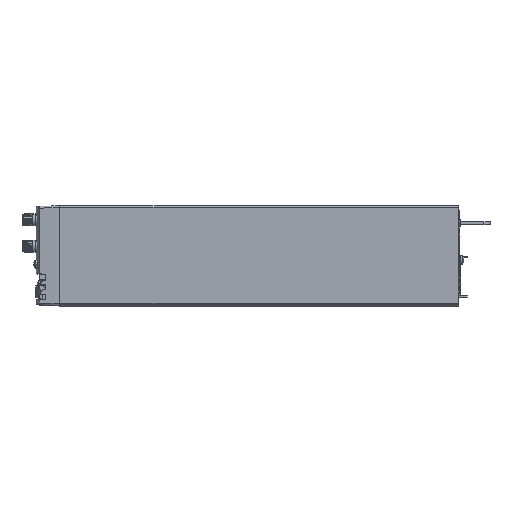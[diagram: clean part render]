
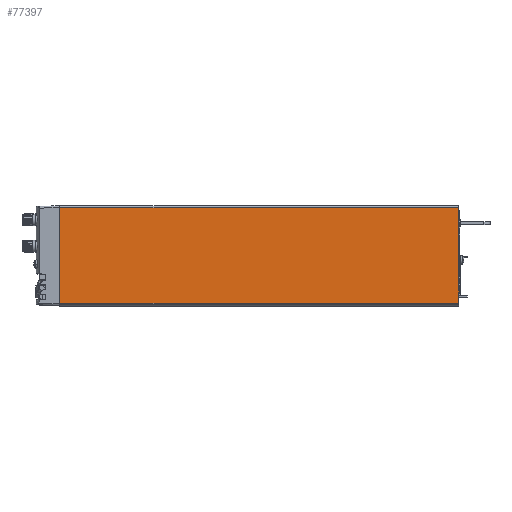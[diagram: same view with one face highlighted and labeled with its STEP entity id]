
A CAD part, top view. The second image highlights one B-rep face of the part: STEP entity #77397.
In plain terms, the highlighted planar face has unit normal (0, 0, 1).
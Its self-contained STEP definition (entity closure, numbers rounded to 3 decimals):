
#54609=DIRECTION('',(1.,0.,0.));
#54610=VECTOR('',#54609,12.992);
#54611=CARTESIAN_POINT('',(-14.036,2.408,
1.944));
#54612=LINE('',#54611,#54610);
#54613=DIRECTION('',(0.,-1.,0.));
#54614=VECTOR('',#54613,3.11);
#54615=CARTESIAN_POINT('',(-14.036,2.408,
1.944));
#54616=LINE('',#54615,#54614);
#54617=DIRECTION('',(0.,1.,0.));
#54618=VECTOR('',#54617,3.11);
#54619=CARTESIAN_POINT('',(-1.044,-0.702,
1.944));
#54620=LINE('',#54619,#54618);
#54621=DIRECTION('',(-1.,0.,0.));
#54622=VECTOR('',#54621,12.992);
#54623=CARTESIAN_POINT('',(-1.044,-0.702,
1.944));
#54624=LINE('',#54623,#54622);
#59823=CARTESIAN_POINT('',(-1.044,-0.702,
1.944));
#59824=VERTEX_POINT('',#59823);
#59825=CARTESIAN_POINT('',(-1.044,2.408,
1.944));
#59826=VERTEX_POINT('',#59825);
#59842=CARTESIAN_POINT('',(-14.036,-0.702,
1.944));
#59844=VERTEX_POINT('',#59842);
#59845=CARTESIAN_POINT('',(-14.036,2.408,
1.944));
#59846=VERTEX_POINT('',#59845);
#77385=CARTESIAN_POINT('',(-1.044,2.408,
1.944));
#77386=DIRECTION('',(0.,0.,1.));
#77387=DIRECTION('',(0.,1.,0.));
#77388=AXIS2_PLACEMENT_3D('',#77385,#77386,#77387);
#77389=PLANE('',#77388);
#77390=ORIENTED_EDGE('',*,*,#73566,.F.);
#77391=ORIENTED_EDGE('',*,*,#77380,.T.);
#77392=ORIENTED_EDGE('',*,*,#72472,.F.);
#77394=ORIENTED_EDGE('',*,*,#77393,.T.);
#77395=EDGE_LOOP('',(#77390,#77391,#77392,#77394));
#77396=FACE_OUTER_BOUND('',#77395,.F.);
#77397=ADVANCED_FACE('',(#77396),#77389,.T.);
#72472=EDGE_CURVE('',#59824,#59826,#54620,.T.);
#73566=EDGE_CURVE('',#59846,#59844,#54616,.T.);
#77380=EDGE_CURVE('',#59846,#59826,#54612,.T.);
#77393=EDGE_CURVE('',#59824,#59844,#54624,.T.);
